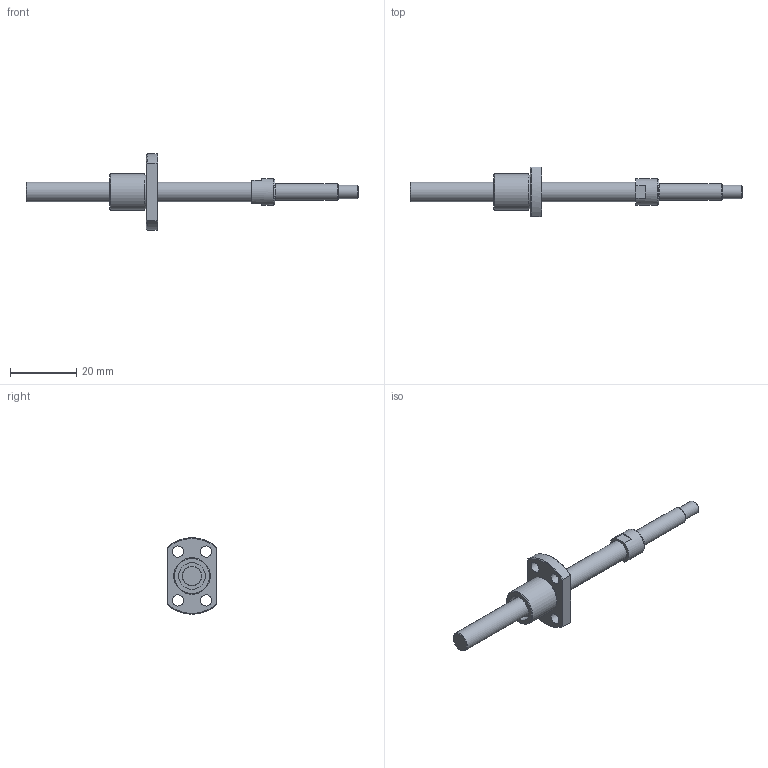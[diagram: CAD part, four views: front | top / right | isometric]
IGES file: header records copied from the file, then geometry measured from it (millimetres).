
Start section: Data from Parasolid IGES Translator 26.0.171, Copyright(c) 2006 Siemens PLM Software. All Rights Reserved.
Global section: file name: BNK0601-3G0+100LC5Y(39.75).igs; native system: By Siemens PLM Incorporated; preprocessor: XPlus GENERIC/IGES 26.0.171; author: Noname; organization: Noname; date: 20240709.081229; units: millimetre
Bounding box: 100 x 15 x 23 mm (x, y, z)
Surface area: 3505.8 mm2 (no closed solid volume)
Topology: 0 solids, 0 shells, 45 faces, 202 edges, 175 vertices
Faces by surface type: revolution 28, extrusion 17
